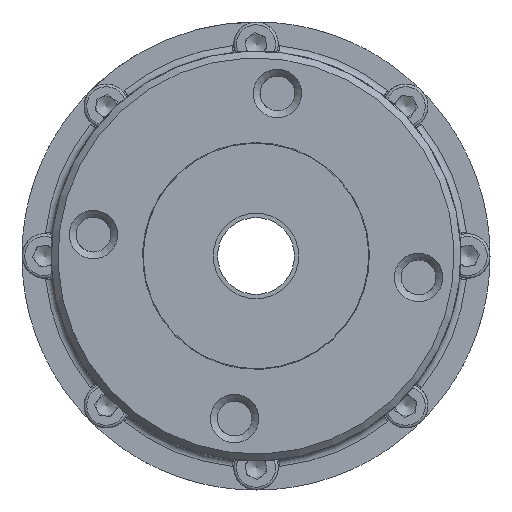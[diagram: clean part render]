
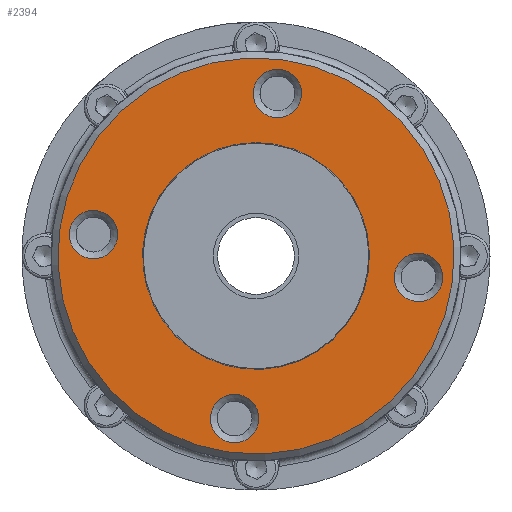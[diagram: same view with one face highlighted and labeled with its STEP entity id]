
A CAD part, left-side view. The second image highlights one B-rep face of the part: STEP entity #2394.
In plain terms, the highlighted planar face has unit normal (-1, 0, 0).
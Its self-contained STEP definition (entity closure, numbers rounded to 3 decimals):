
#2394 = ADVANCED_FACE( '', ( #5149, #5150, #5151, #5152, #5153, #5154 ), #5155, .T. );
#5149 = FACE_OUTER_BOUND( '', #7949, .T. );
#5150 = FACE_BOUND( '', #7950, .T. );
#5151 = FACE_BOUND( '', #7951, .T. );
#5152 = FACE_BOUND( '', #7952, .T. );
#5153 = FACE_BOUND( '', #7953, .T. );
#5154 = FACE_BOUND( '', #7954, .T. );
#5155 = PLANE( '', #7955 );
#7949 = EDGE_LOOP( '', ( #14631 ) );
#7950 = EDGE_LOOP( '', ( #14632 ) );
#7951 = EDGE_LOOP( '', ( #14633 ) );
#7952 = EDGE_LOOP( '', ( #14634 ) );
#7953 = EDGE_LOOP( '', ( #14635 ) );
#7954 = EDGE_LOOP( '', ( #14636 ) );
#7955 = AXIS2_PLACEMENT_3D( '', #14637, #14638, #14639 );
#14631 = ORIENTED_EDGE( '', *, *, #15118, .T. );
#14632 = ORIENTED_EDGE( '', *, *, #15181, .F. );
#14633 = ORIENTED_EDGE( '', *, *, #16198, .T. );
#14634 = ORIENTED_EDGE( '', *, *, #15112, .T. );
#14635 = ORIENTED_EDGE( '', *, *, #16932, .T. );
#14636 = ORIENTED_EDGE( '', *, *, #17022, .T. );
#14637 = CARTESIAN_POINT( '', ( -113.5, 32.817, 4.32 ) );
#14638 = DIRECTION( '', ( -1., 0., 0. ) );
#14639 = DIRECTION( '', ( 0., 0., 1. ) );
#15112 = EDGE_CURVE( '', #17949, #17949, #17950, .T. );
#15118 = EDGE_CURVE( '', #17959, #17959, #17960, .T. );
#15181 = EDGE_CURVE( '', #18060, #18060, #18061, .T. );
#16198 = EDGE_CURVE( '', #19660, #19660, #19661, .T. );
#16932 = EDGE_CURVE( '', #20651, #20651, #20652, .T. );
#17022 = EDGE_CURVE( '', #20759, #20759, #20760, .T. );
#17949 = VERTEX_POINT( '', #22425 );
#17950 = CIRCLE( '', #22426, 7.1 );
#17959 = VERTEX_POINT( '', #22435 );
#17960 = CIRCLE( '', #22436, 58. );
#18060 = VERTEX_POINT( '', #22666 );
#18061 = CIRCLE( '', #22667, 33.2 );
#19660 = VERTEX_POINT( '', #26109 );
#19661 = CIRCLE( '', #26110, 7.1 );
#20651 = VERTEX_POINT( '', #28127 );
#20652 = CIRCLE( '', #28128, 7.1 );
#20759 = VERTEX_POINT( '', #28322 );
#20760 = CIRCLE( '', #28323, 7.1 );
#22425 = CARTESIAN_POINT( '', ( -113.5, -40.55, -5.339 ) );
#22426 = AXIS2_PLACEMENT_3D( '', #29268, #29269, #29270 );
#22435 = CARTESIAN_POINT( '', ( -113.5, 57.504, 7.571 ) );
#22436 = AXIS2_PLACEMENT_3D( '', #29280, #29281, #29282 );
#22666 = CARTESIAN_POINT( '', ( -113.5, 0., 33.2 ) );
#22667 = AXIS2_PLACEMENT_3D( '', #29373, #29374, #29375 );
#26109 = CARTESIAN_POINT( '', ( -113.5, 13.305, -46.663 ) );
#26110 = AXIS2_PLACEMENT_3D( '', #30626, #30627, #30628 );
#28127 = CARTESIAN_POINT( '', ( -113.5, 0.774, 48.516 ) );
#28128 = AXIS2_PLACEMENT_3D( '', #31467, #31468, #31469 );
#28322 = CARTESIAN_POINT( '', ( -113.5, 54.629, 7.192 ) );
#28323 = AXIS2_PLACEMENT_3D( '', #31551, #31552, #31553 );
#29268 = CARTESIAN_POINT( '', ( -113.5, -47.589, -6.265 ) );
#29269 = DIRECTION( '', ( 1., 0., 0. ) );
#29270 = DIRECTION( '', ( 0., 0.991, 0.131 ) );
#29280 = CARTESIAN_POINT( '', ( -113.5, 0., 0. ) );
#29281 = DIRECTION( '', ( -1., 0., 0. ) );
#29282 = DIRECTION( '', ( 0., 0.991, 0.131 ) );
#29373 = CARTESIAN_POINT( '', ( -113.5, 0., 0. ) );
#29374 = DIRECTION( '', ( -1., 0., 0. ) );
#29375 = DIRECTION( '', ( 0., 0., 1. ) );
#30626 = CARTESIAN_POINT( '', ( -113.5, 6.265, -47.589 ) );
#30627 = DIRECTION( '', ( 1., 0., 0. ) );
#30628 = DIRECTION( '', ( 0., 0.991, 0.131 ) );
#31467 = CARTESIAN_POINT( '', ( -113.5, -6.265, 47.589 ) );
#31468 = DIRECTION( '', ( 1., 0., 0. ) );
#31469 = DIRECTION( '', ( 0., 0.991, 0.131 ) );
#31551 = CARTESIAN_POINT( '', ( -113.5, 47.589, 6.265 ) );
#31552 = DIRECTION( '', ( 1., 0., 0. ) );
#31553 = DIRECTION( '', ( 0., 0.991, 0.131 ) );
